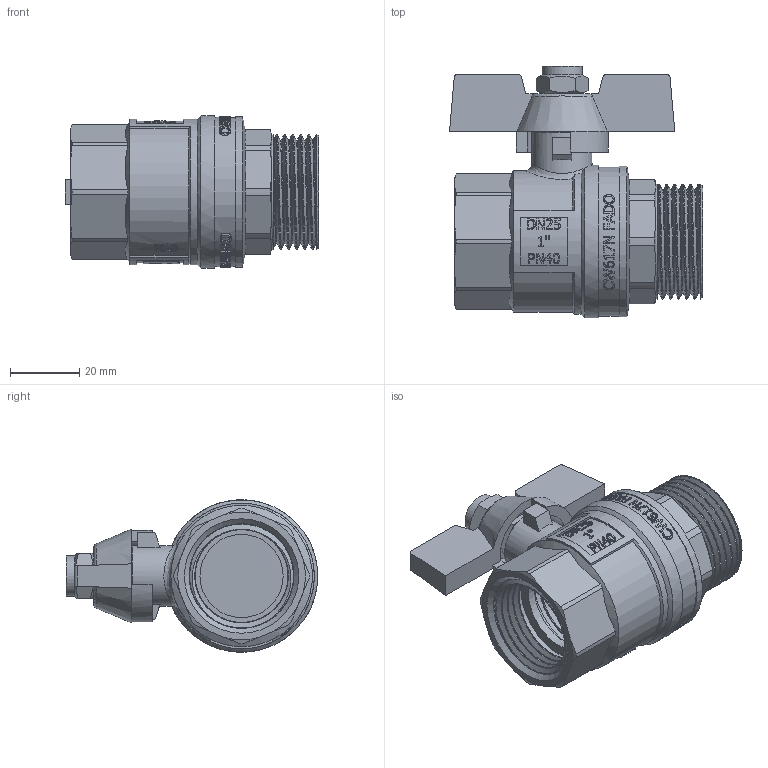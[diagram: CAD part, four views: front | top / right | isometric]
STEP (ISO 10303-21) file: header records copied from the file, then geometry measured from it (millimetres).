
FILE_DESCRIPTION(/* description */ (''),/* implementation_level */ '2;1');
FILE_NAME(/* name */ 'C:\Users\Doom\Desktop\Фадотех\KN13 08.11.2021\KN13 08.11.2021.stp',/* time_stamp */ '2021-12-05T12:25:54+02:00',/* author */ ('Doom'),/* organization */ (''),/* preprocessor_version */ 'ST-DEVELOPER v18',/* originating_system */ 'Autodesk Inventor 2020',/* authorisation */ '');
FILE_SCHEMA (('AUTOMOTIVE_DESIGN { 1 0 10303 214 3 1 1 }'));
Length unit declared in the file: millimetre
Products named in the file (8): KN13 08.11.2021; 20642024; KA2 08.11.2021; 22208286; KA1 08.11.2021; 50105048008; KA2 08.11.2021_1; DIN 985 - M8
Assembly tree (7 placements, depth 2):
  KN13 08.11.2021
    20642024
    KA2 08.11.2021
    22208286
    KA1 08.11.2021
    50105048008
    KA2 08.11.2021_1
    DIN 985 - M8
Bounding box: 73 x 72.6 x 44 mm (x, y, z)
Volume: 53448.2 mm3; surface area: 47346.2 mm2
Topology: 15 solids, 15 shells, 1756 faces, 5013 edges, 3359 vertices
Faces by surface type: plane 778, bspline 632, cylinder 304, cone 36, torus 5, sphere 1
Full cylindrical faces by diameter (mm): 6.647 x1, 8.276 x2, 9.5 x1, 9.7 x2, 10.5 x2, 11 x1, 11.6 x1, 12 x1, 12.5 x1, 12.517 x2, 14 x3, 17.5 x1, 19.5 x1, 20.5 x1, 24 x3, 26.5 x1, 26.776 x4, 29.776 x2, 30.2 x2, 32 x2, 33.2 x1, 34.776 x4, 37 x2, 37.517 x2, 39 x7, 39.5 x1, 43 x1, 43.5 x1, 44 x1
Entity records: 101613 total; most frequent: CARTESIAN_POINT 62117, ORIENTED_EDGE 10008, DIRECTION 5287, EDGE_CURVE 5004, VERTEX_POINT 3355, B_SPLINE_CURVE_WITH_KNOTS 2531, EDGE_LOOP 1859, AXIS2_PLACEMENT_3D 1846
